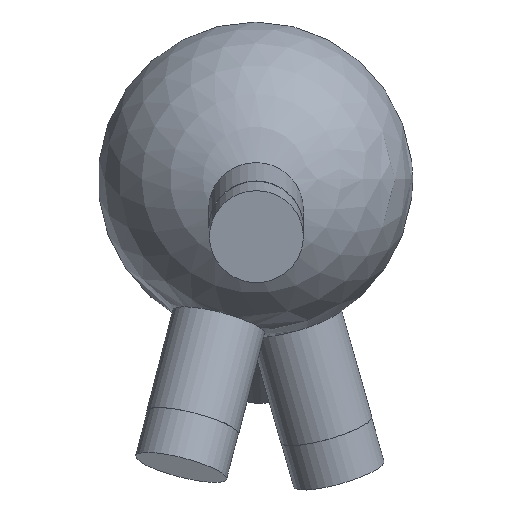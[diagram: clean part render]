
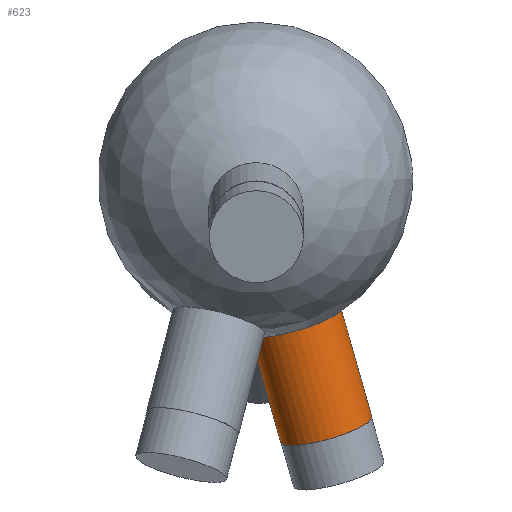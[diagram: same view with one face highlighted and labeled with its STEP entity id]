
A CAD part, top view. The second image highlights one B-rep face of the part: STEP entity #623.
In plain terms, the highlighted cylindrical face has radius 6 mm (diameter 12 mm), a full revolution.
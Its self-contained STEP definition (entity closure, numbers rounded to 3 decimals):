
#33 = SPHERICAL_SURFACE('',#34,20.);
#34 = AXIS2_PLACEMENT_3D('',#35,#36,#37);
#35 = CARTESIAN_POINT('',(0.,0.,0.));
#36 = DIRECTION('',(0.,0.,1.));
#37 = DIRECTION('',(1.,0.,-0.));
#374 = EDGE_CURVE('',#375,#375,#377,.T.);
#375 = VERTEX_POINT('',#376);
#376 = CARTESIAN_POINT('',(-0.684,-19.581,
    -4.012));
#377 = SURFACE_CURVE('',#378,(#383,#445),.PCURVE_S1.);
#378 = CIRCLE('',#379,6.);
#379 = AXIS2_PLACEMENT_3D('',#380,#381,#382);
#380 = CARTESIAN_POINT('',(5.089,-17.945,
    -4.012));
#381 = DIRECTION('',(0.267,-0.941,-0.21));
#382 = DIRECTION('',(0.962,0.273,0.));
#383 = PCURVE('',#33,#384);
#384 = DEFINITIONAL_REPRESENTATION('',(#385),#444);
#385 = B_SPLINE_CURVE_WITH_KNOTS('',8,(#386,#387,#388,#389,#390,#391,
    #392,#393,#394,#395,#396,#397,#398,#399,#400,#401,#402,#403,#404,
    #405,#406,#407,#408,#409,#410,#411,#412,#413,#414,#415,#416,#417,
    #418,#419,#420,#421,#422,#423,#424,#425,#426,#427,#428,#429,#430,
    #431,#432,#433,#434,#435,#436,#437,#438,#439,#440,#441,#442,#443),
  .UNSPECIFIED.,.F.,.F.,(9,7,7,7,7,7,7,7,9),(3.142,
    3.927,4.614,5.216,6.268,
    7.057,7.649,8.537,9.425),
  .UNSPECIFIED.);
#386 = CARTESIAN_POINT('',(4.677,-0.202));
#387 = CARTESIAN_POINT('',(4.676,-0.231));
#388 = CARTESIAN_POINT('',(4.677,-0.261));
#389 = CARTESIAN_POINT('',(4.681,-0.29));
#390 = CARTESIAN_POINT('',(4.689,-0.319));
#391 = CARTESIAN_POINT('',(4.7,-0.347));
#392 = CARTESIAN_POINT('',(4.715,-0.373));
#393 = CARTESIAN_POINT('',(4.733,-0.398));
#394 = CARTESIAN_POINT('',(4.773,-0.44));
#395 = CARTESIAN_POINT('',(4.793,-0.458));
#396 = CARTESIAN_POINT('',(4.816,-0.473));
#397 = CARTESIAN_POINT('',(4.842,-0.487));
#398 = CARTESIAN_POINT('',(4.868,-0.498));
#399 = CARTESIAN_POINT('',(4.896,-0.506));
#400 = CARTESIAN_POINT('',(4.925,-0.512));
#401 = CARTESIAN_POINT('',(4.981,-0.517));
#402 = CARTESIAN_POINT('',(5.007,-0.518));
#403 = CARTESIAN_POINT('',(5.033,-0.516));
#404 = CARTESIAN_POINT('',(5.059,-0.512));
#405 = CARTESIAN_POINT('',(5.084,-0.506));
#406 = CARTESIAN_POINT('',(5.108,-0.497));
#407 = CARTESIAN_POINT('',(5.131,-0.487));
#408 = CARTESIAN_POINT('',(5.19,-0.454));
#409 = CARTESIAN_POINT('',(5.223,-0.428));
#410 = CARTESIAN_POINT('',(5.251,-0.397));
#411 = CARTESIAN_POINT('',(5.273,-0.362));
#412 = CARTESIAN_POINT('',(5.289,-0.325));
#413 = CARTESIAN_POINT('',(5.298,-0.286));
#414 = CARTESIAN_POINT('',(5.302,-0.246));
#415 = CARTESIAN_POINT('',(5.299,-0.177));
#416 = CARTESIAN_POINT('',(5.294,-0.148));
#417 = CARTESIAN_POINT('',(5.286,-0.119));
#418 = CARTESIAN_POINT('',(5.275,-0.091));
#419 = CARTESIAN_POINT('',(5.261,-0.064));
#420 = CARTESIAN_POINT('',(5.245,-0.039));
#421 = CARTESIAN_POINT('',(5.226,-0.016));
#422 = CARTESIAN_POINT('',(5.189,0.02));
#423 = CARTESIAN_POINT('',(5.172,0.034));
#424 = CARTESIAN_POINT('',(5.154,0.047));
#425 = CARTESIAN_POINT('',(5.134,0.058));
#426 = CARTESIAN_POINT('',(5.114,0.068));
#427 = CARTESIAN_POINT('',(5.093,0.076));
#428 = CARTESIAN_POINT('',(5.072,0.082));
#429 = CARTESIAN_POINT('',(5.017,0.093));
#430 = CARTESIAN_POINT('',(4.984,0.096));
#431 = CARTESIAN_POINT('',(4.95,0.094));
#432 = CARTESIAN_POINT('',(4.916,0.088));
#433 = CARTESIAN_POINT('',(4.884,0.079));
#434 = CARTESIAN_POINT('',(4.853,0.065));
#435 = CARTESIAN_POINT('',(4.824,0.047));
#436 = CARTESIAN_POINT('',(4.772,0.006));
#437 = CARTESIAN_POINT('',(4.748,-0.017));
#438 = CARTESIAN_POINT('',(4.728,-0.044));
#439 = CARTESIAN_POINT('',(4.71,-0.073));
#440 = CARTESIAN_POINT('',(4.696,-0.104));
#441 = CARTESIAN_POINT('',(4.686,-0.136));
#442 = CARTESIAN_POINT('',(4.68,-0.169));
#443 = CARTESIAN_POINT('',(4.677,-0.202));
#444 = ( GEOMETRIC_REPRESENTATION_CONTEXT(2) 
PARAMETRIC_REPRESENTATION_CONTEXT() REPRESENTATION_CONTEXT('2D SPACE',''
  ) );
#445 = PCURVE('',#446,#451);
#446 = CYLINDRICAL_SURFACE('',#447,6.);
#447 = AXIS2_PLACEMENT_3D('',#448,#449,#450);
#448 = CARTESIAN_POINT('',(0.,0.,0.));
#449 = DIRECTION('',(0.267,-0.941,-0.21));
#450 = DIRECTION('',(-0.962,-0.273,0.
    ));
#451 = DEFINITIONAL_REPRESENTATION('',(#452),#456);
#452 = LINE('',#453,#454);
#453 = CARTESIAN_POINT('',(-3.142,19.079));
#454 = VECTOR('',#455,1.);
#455 = DIRECTION('',(1.,0.));
#456 = ( GEOMETRIC_REPRESENTATION_CONTEXT(2) 
PARAMETRIC_REPRESENTATION_CONTEXT() REPRESENTATION_CONTEXT('2D SPACE',''
  ) );
#623 = ADVANCED_FACE('',(#624),#446,.T.);
#624 = FACE_BOUND('',#625,.T.);
#625 = EDGE_LOOP('',(#626,#649,#676,#677));
#626 = ORIENTED_EDGE('',*,*,#627,.T.);
#627 = EDGE_CURVE('',#375,#628,#630,.T.);
#628 = VERTEX_POINT('',#629);
#629 = CARTESIAN_POINT('',(3.223,-33.359,
    -7.093));
#630 = SEAM_CURVE('',#631,(#635,#642),.PCURVE_S1.);
#631 = LINE('',#632,#633);
#632 = CARTESIAN_POINT('',(-5.772,-1.637,
    0.));
#633 = VECTOR('',#634,1.);
#634 = DIRECTION('',(0.267,-0.941,-0.21));
#635 = PCURVE('',#446,#636);
#636 = DEFINITIONAL_REPRESENTATION('',(#637),#641);
#637 = LINE('',#638,#639);
#638 = CARTESIAN_POINT('',(6.283,-0.));
#639 = VECTOR('',#640,1.);
#640 = DIRECTION('',(0.,1.));
#641 = ( GEOMETRIC_REPRESENTATION_CONTEXT(2) 
PARAMETRIC_REPRESENTATION_CONTEXT() REPRESENTATION_CONTEXT('2D SPACE',''
  ) );
#642 = PCURVE('',#446,#643);
#643 = DEFINITIONAL_REPRESENTATION('',(#644),#648);
#644 = LINE('',#645,#646);
#645 = CARTESIAN_POINT('',(0.,-0.));
#646 = VECTOR('',#647,1.);
#647 = DIRECTION('',(0.,1.));
#648 = ( GEOMETRIC_REPRESENTATION_CONTEXT(2) 
PARAMETRIC_REPRESENTATION_CONTEXT() REPRESENTATION_CONTEXT('2D SPACE',''
  ) );
#649 = ORIENTED_EDGE('',*,*,#650,.F.);
#650 = EDGE_CURVE('',#628,#628,#651,.T.);
#651 = SURFACE_CURVE('',#652,(#657,#664),.PCURVE_S1.);
#652 = CIRCLE('',#653,6.);
#653 = AXIS2_PLACEMENT_3D('',#654,#655,#656);
#654 = CARTESIAN_POINT('',(8.996,-31.723,
    -7.093));
#655 = DIRECTION('',(0.267,-0.941,-0.21));
#656 = DIRECTION('',(-0.962,-0.273,0.
    ));
#657 = PCURVE('',#446,#658);
#658 = DEFINITIONAL_REPRESENTATION('',(#659),#663);
#659 = LINE('',#660,#661);
#660 = CARTESIAN_POINT('',(0.,33.728));
#661 = VECTOR('',#662,1.);
#662 = DIRECTION('',(1.,0.));
#663 = ( GEOMETRIC_REPRESENTATION_CONTEXT(2) 
PARAMETRIC_REPRESENTATION_CONTEXT() REPRESENTATION_CONTEXT('2D SPACE',''
  ) );
#664 = PCURVE('',#665,#670);
#665 = PLANE('',#666);
#666 = AXIS2_PLACEMENT_3D('',#667,#668,#669);
#667 = CARTESIAN_POINT('',(8.996,-31.723,
    -7.093));
#668 = DIRECTION('',(0.267,-0.941,-0.21));
#669 = DIRECTION('',(-0.962,-0.273,0.
    ));
#670 = DEFINITIONAL_REPRESENTATION('',(#671),#675);
#671 = CIRCLE('',#672,6.);
#672 = AXIS2_PLACEMENT_2D('',#673,#674);
#673 = CARTESIAN_POINT('',(0.,0.));
#674 = DIRECTION('',(1.,0.));
#675 = ( GEOMETRIC_REPRESENTATION_CONTEXT(2) 
PARAMETRIC_REPRESENTATION_CONTEXT() REPRESENTATION_CONTEXT('2D SPACE',''
  ) );
#676 = ORIENTED_EDGE('',*,*,#627,.F.);
#677 = ORIENTED_EDGE('',*,*,#374,.T.);
